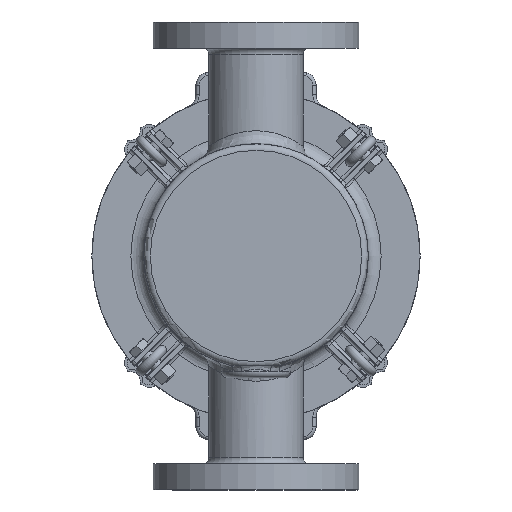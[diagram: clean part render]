
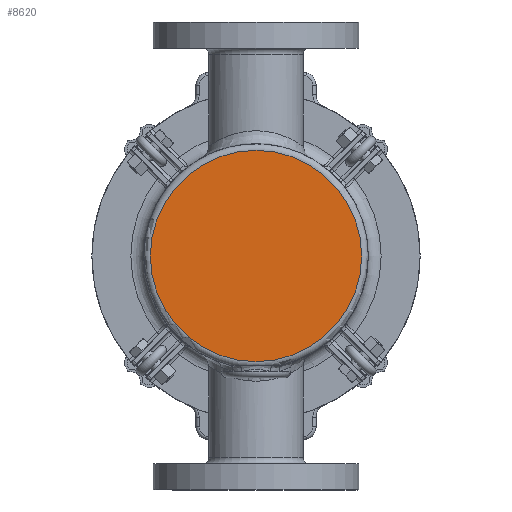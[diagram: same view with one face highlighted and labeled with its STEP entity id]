
A CAD part, front view. The second image highlights one B-rep face of the part: STEP entity #8620.
In plain terms, the highlighted planar face has unit normal (0, -1, 0).
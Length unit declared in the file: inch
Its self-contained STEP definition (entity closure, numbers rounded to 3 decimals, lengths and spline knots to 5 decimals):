
#1149=PLANE('',#9205);
#1768=FACE_OUTER_BOUND('',#2332,.T.);
#2332=EDGE_LOOP('',(#5830));
#3194=CIRCLE('',#9201,4.0625);
#3771=VERTEX_POINT('',#13490);
#4566=EDGE_CURVE('',#3771,#3771,#3194,.T.);
#5830=ORIENTED_EDGE('',*,*,#4566,.F.);
#8620=ADVANCED_FACE('',(#1768),#1149,.F.);
#9201=AXIS2_PLACEMENT_3D('',#13491,#10382,#10383);
#9205=AXIS2_PLACEMENT_3D('',#13496,#10390,#10391);
#10382=DIRECTION('center_axis',(0.,1.,0.));
#10383=DIRECTION('ref_axis',(1.,0.,0.));
#10390=DIRECTION('center_axis',(0.,1.,0.));
#10391=DIRECTION('ref_axis',(0.,0.,1.));
#13490=CARTESIAN_POINT('',(-4.0625,0.,0.));
#13491=CARTESIAN_POINT('Origin',(0.,0.,0.));
#13496=CARTESIAN_POINT('Origin',(0.,0.,0.));
